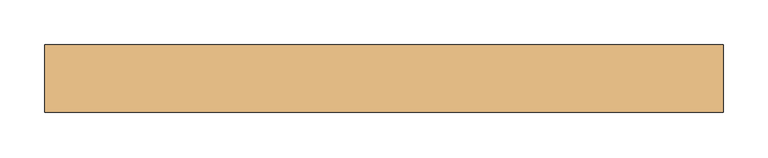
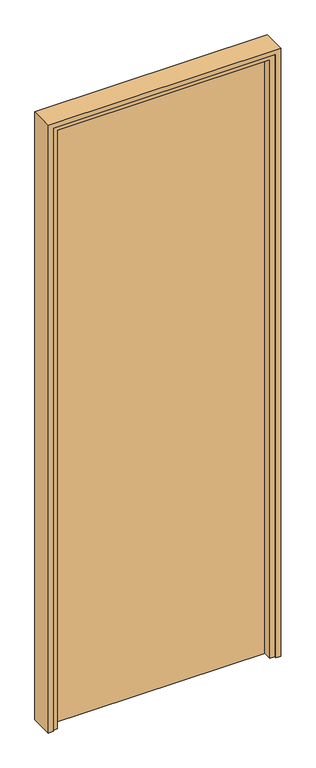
"""IFC4 building model written with IfcOpenShell, lengths in millimetres: door geometry, VERTI ELEMENT - dveřní panel : ELEMENT - dveřní panel."""

from ifc_helpers import new_model, si_unit, origin, origin_with_axes, place, context, project, spatial, polyline, outline, extrude, faceted_brep, source, transform, mapped, element, save


def door_389a7516(model_context):
    return source(origin(), model_context, "Body", "SolidModel", [
        extrude(outline(polyline([(361.5, -2.5), (-361.5, -2.5), (-361.5, 5.5), (361.5, 5.5), (361.5, -2.5)])), origin_with_axes(), (0.0, 0.0, 1.0), 2071.5),
        faceted_brep([(-361.5, -37.5, 0.0), (-377.5, -37.5, 0.0), (-377.5, 37.5, 0.0), (-361.5, 37.5, 0.0), (-361.5, -2.5, 0.0), (-345.5, -2.5, 0.0), (-345.5, -32.5, 0.0), (-361.5, -32.5, 0.0), (-361.5, -37.5, 2071.5), (361.5, -37.5, 2071.5), (361.5, -37.5, 0.0), (377.5, -37.5, 0.0), (377.5, -37.5, 2087.5), (-377.5, -37.5, 2087.5), (-377.5, 37.5, 2087.5), (377.5, 37.5, 2087.5), (377.5, 37.5, 0.0), (361.5, 37.5, 0.0), (361.5, 37.5, 2071.5), (-361.5, 37.5, 2071.5), (-361.5, -2.5, 2071.5), (361.5, -2.5, 2071.5), (361.5, -2.5, 0.0), (345.5, -2.5, 0.0), (345.5, -2.5, 2055.5), (-345.5, -2.5, 2055.5), (-345.5, -32.5, 2055.5), (345.5, -32.5, 2055.5), (345.5, -32.5, 0.0), (361.5, -32.5, 0.0), (361.5, -32.5, 2071.5), (-361.5, -32.5, 2071.5)], [[[0, 1, 2, 3, 4, 5, 6, 7]], [[1, 0, 8, 9, 10, 11, 12, 13]], [[2, 1, 13, 14]], [[3, 2, 14, 15, 16, 17, 18, 19]], [[4, 3, 19, 20]], [[5, 4, 20, 21, 22, 23, 24, 25]], [[6, 5, 25, 26]], [[7, 6, 26, 27, 28, 29, 30, 31]], [[0, 7, 31, 8]], [[9, 30, 29, 10]], [[10, 29, 28, 23, 22, 17, 16, 11]], [[15, 12, 11, 16]], [[21, 18, 17, 22]], [[27, 24, 23, 28]], [[8, 31, 30, 9]], [[14, 13, 12, 15]], [[20, 19, 18, 21]], [[26, 25, 24, 27]]]),
    ])


if __name__ == "__main__":
    model = new_model("IFC4")
    model_context = context("Model", 3, world=origin())
    ifc_project = project(units=[si_unit("LENGTHUNIT", "METRE", prefix="MILLI")], contexts=[model_context])
    site = spatial("IfcSite", under=ifc_project)
    building = spatial("IfcBuilding", under=site)
    placement = place(None, origin())
    door_shape = door_389a7516(model_context)
    element("IfcDoor", 1, ObjectType="VERTI ELEMENT - dveřní panel : ELEMENT - dveřní panel", at=placement, inside=building, context=model_context, shape_type="MappedRepresentation", body=[
        mapped(door_shape, transform((0.0, 0.0, 0.0), x_axis=(1.0, 0.0, 0.0), y_axis=(0.0, 1.0, 0.0), z_axis=(0.0, 0.0, 1.0))),
    ])
    save(model, "model.ifc")
